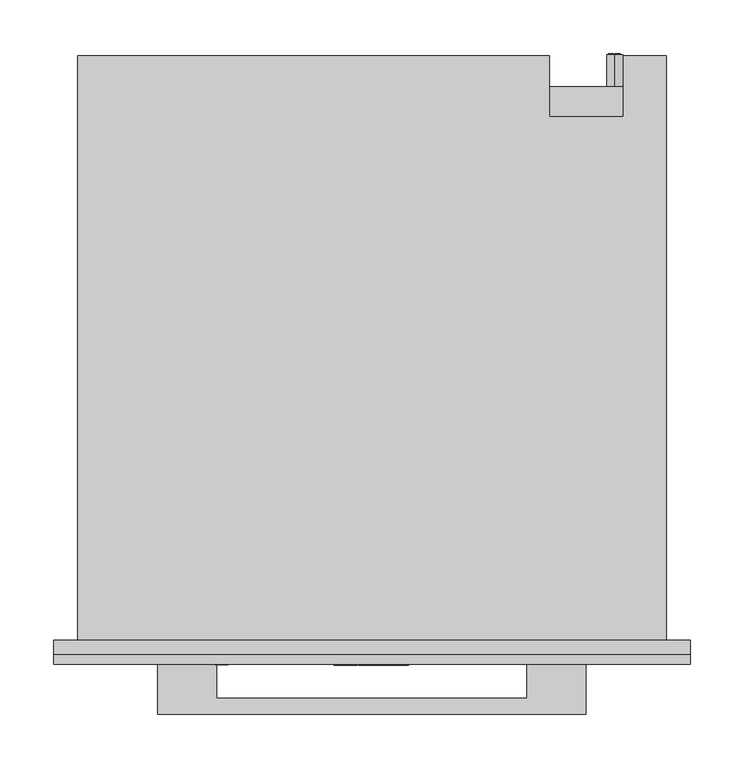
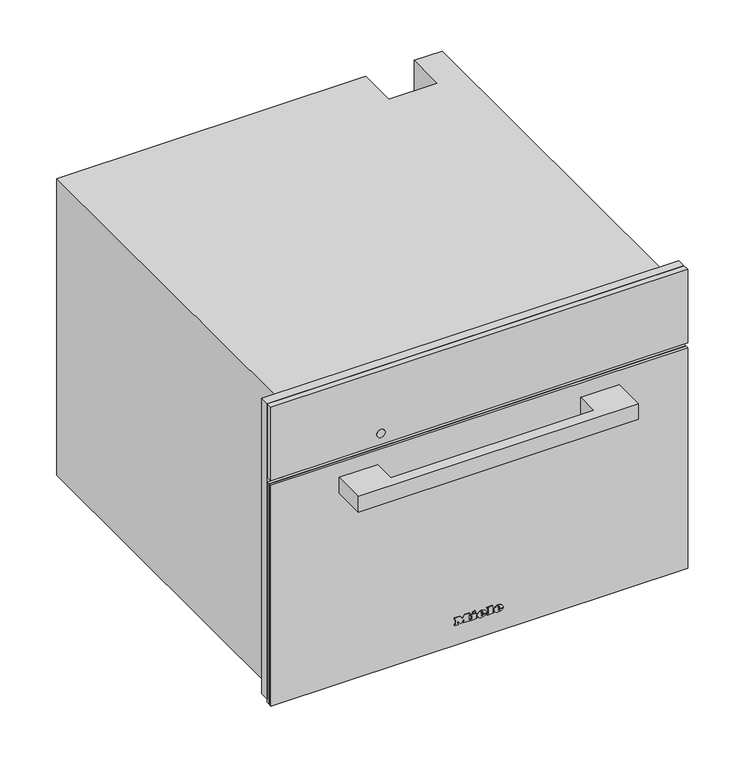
"""IFC4 building model written with IfcOpenShell, lengths in millimetres: proxy geometry, 12116980_I_DGC7840HCPro_GRGR : 23784038_I_12116980_DGC7840HCPro_GRGR."""

from ifc_helpers import new_model, si_unit, point, frame, frame_2d, origin, place, context, project, spatial, polyline, circle_curve, ellipse_curve, trimmed, segment, composite_curve, outline, extrude, faceted_brep, source, transform, mapped, element, save
from ifc_brep_helpers import plane_surface, cylinder_surface, revolved_surface, extruded_surface, advanced_brep


def specialty_equipment_21fb220e(model_context):
    return source(origin(), model_context, "Body", "SolidModel", [
        extrude(outline(polyline([(455.0, 297.5), (455.0, -297.5), (9.0, -297.5), (9.0, 297.5), (455.0, 297.5)]), holes=[polyline([(344.0, -272.5), (344.0, 272.5), (27.0, 272.5), (27.0, -272.5), (344.0, -272.5)])]), frame((0.0, -13.0, 0.0), z_axis=(0.0, 1.0, 0.0), x_axis=(0.0, 0.0, 1.0)), (0.0, 0.0, 1.0), 13.0),
        advanced_brep(
        [(227.0, 547.0, 255.5), (227.0, 547.0, 240.5), (221.4098301, 547.0, 243.0), (225.5, 547.0, 243.0), (225.5, 547.0, 253.0), (224.4955303, 547.0, 253.0), (224.4955303, 547.0, 244.0), (221.0315043, 547.0, 244.0), (221.0315043, 547.0, 243.4582978), (232.0, 547.0, 243.0), (232.0, 547.0, 253.0), (227.0, 547.0, 253.0), (227.0, 547.0, 252.0), (231.0, 547.0, 252.0), (231.0, 547.0, 248.5), (228.0, 547.0, 248.5), (228.0, 547.0, 247.5), (231.0, 547.0, 247.5), (231.0, 547.0, 244.0), (227.0, 547.0, 244.0), (227.0, 547.0, 243.0), (227.0, 517.0, 240.5), (227.0, 517.0, 255.5), (232.0, 548.0, 253.0), (232.0, 548.0, 243.0), (227.0, 548.0, 243.0), (227.0, 548.0, 244.0), (231.0, 548.0, 244.0), (231.0, 548.0, 247.5), (228.0, 548.0, 247.5), (228.0, 548.0, 248.5), (231.0, 548.0, 248.5), (231.0, 548.0, 252.0), (227.0, 548.0, 252.0), (227.0, 548.0, 253.0), (225.5, 548.0, 243.0), (221.0315043, 548.0, 243.0), (221.0315043, 548.0, 244.0), (224.4955303, 548.0, 244.0), (224.4955303, 548.0, 253.0), (225.5, 548.0, 253.0), (221.0315043, 547.0, 243.0)],
        [
            (0, 1, circle_curve(frame((227.0, 547.0, 248.0), z_axis=(0.0, 1.0, 0.0), x_axis=(0.0, 0.0, 1.0)), 7.5)),
            (1, 2, circle_curve(frame((227.0, 547.0, 248.0), z_axis=(0.0, 1.0, 0.0), x_axis=(0.0, 0.0, 1.0)), 7.5)),
            (2, 3),
            (3, 4),
            (4, 5),
            (5, 6),
            (6, 7),
            (7, 8),
            (8, 0, circle_curve(frame((227.0, 547.0, 248.0), z_axis=(0.0, 1.0, 0.0), x_axis=(0.0, 0.0, 1.0)), 7.5)),
            (9, 10),
            (10, 11),
            (11, 12),
            (12, 13),
            (13, 14),
            (14, 15),
            (15, 16),
            (16, 17),
            (17, 18),
            (18, 19),
            (19, 20),
            (20, 9),
            (21, 22, circle_curve(frame((227.0, 517.0, 248.0), z_axis=(0.0, -1.0, 0.0), x_axis=(0.0, 0.0, 1.0)), 7.5)),
            (22, 21, circle_curve(frame((227.0, 517.0, 248.0), z_axis=(0.0, -1.0, 0.0), x_axis=(0.0, 0.0, 1.0)), 7.5)),
            (0, 22),
            (21, 1),
            (8, 2, circle_curve(frame((227.0, 547.0, 248.0), z_axis=(0.0, -1.0, 0.0), x_axis=(0.0, 0.0, 1.0)), 7.5)),
            (23, 24),
            (24, 25),
            (25, 26),
            (26, 27),
            (27, 28),
            (28, 29),
            (29, 30),
            (30, 31),
            (31, 32),
            (32, 33),
            (33, 34),
            (34, 23),
            (35, 36),
            (36, 37),
            (37, 38),
            (38, 39),
            (39, 40),
            (40, 35),
            (8, 41),
            (41, 2),
            (23, 10),
            (9, 24),
            (20, 25),
            (19, 26),
            (18, 27),
            (17, 28),
            (16, 29),
            (15, 30),
            (14, 31),
            (13, 32),
            (12, 33),
            (11, 34),
            (35, 3),
            (41, 36),
            (7, 37),
            (6, 38),
            (5, 39),
            (4, 40),
        ],
        [
            plane_surface(frame((227.0, 547.0, 255.5), z_axis=(0.0, 1.0, 0.0), x_axis=(1.0, 0.0, 0.0))),
            plane_surface(frame((227.0, 517.0, 255.5), z_axis=(0.0, -1.0, 0.0), x_axis=(-1.0, 0.0, 0.0))),
            cylinder_surface(frame((227.0, 547.0, 248.0), z_axis=(0.0, -1.0, 0.0), x_axis=(0.0, 0.0, 1.0)), 7.5),
            plane_surface(frame((232.0, 548.0, 253.0), z_axis=(0.0, 1.0, 0.0), x_axis=(0.0, 0.0, -1.0))),
            plane_surface(frame((232.0, 547.0, 253.0), z_axis=(0.0, -1.0, 0.0), x_axis=(0.0, 0.0, 1.0))),
            plane_surface(frame((232.0, 548.0, 253.0), z_axis=(1.0, 0.0, 0.0), x_axis=(0.0, -1.0, 0.0))),
            plane_surface(frame((232.0, 548.0, 243.0), z_axis=(0.0, 0.0, -1.0), x_axis=(0.0, -1.0, 0.0))),
            plane_surface(frame((227.0, 548.0, 243.0), z_axis=(-1.0, 0.0, 0.0), x_axis=(0.0, -1.0, 0.0))),
            plane_surface(frame((227.0, 548.0, 244.0), z_axis=(0.0, 0.0, 1.0), x_axis=(0.0, -1.0, 0.0))),
            plane_surface(frame((231.0, 548.0, 244.0), z_axis=(-1.0, 0.0, 0.0), x_axis=(0.0, -1.0, 0.0))),
            plane_surface(frame((231.0, 548.0, 247.5), z_axis=(0.0, 0.0, -1.0), x_axis=(0.0, -1.0, 0.0))),
            plane_surface(frame((228.0, 548.0, 247.5), z_axis=(-1.0, 0.0, 0.0), x_axis=(0.0, -1.0, 0.0))),
            plane_surface(frame((228.0, 548.0, 248.5), z_axis=(0.0, 0.0, 1.0), x_axis=(0.0, -1.0, 0.0))),
            plane_surface(frame((231.0, 548.0, 248.5), z_axis=(-1.0, 0.0, 0.0), x_axis=(0.0, -1.0, 0.0))),
            plane_surface(frame((231.0, 548.0, 252.0), z_axis=(0.0, 0.0, -1.0), x_axis=(0.0, -1.0, 0.0))),
            plane_surface(frame((227.0, 548.0, 252.0), z_axis=(-1.0, 0.0, 0.0), x_axis=(0.0, -1.0, 0.0))),
            plane_surface(frame((227.0, 548.0, 253.0), z_axis=(0.0, 0.0, 1.0), x_axis=(0.0, -1.0, 0.0))),
            plane_surface(frame((225.5, 548.0, 243.0), z_axis=(0.0, 0.0, -1.0), x_axis=(0.0, -1.0, 0.0))),
            plane_surface(frame((221.0315043, 548.0, 243.0), z_axis=(-1.0, 0.0, 0.0), x_axis=(0.0, -1.0, 0.0))),
            plane_surface(frame((221.0315043, 548.0, 244.0), z_axis=(0.0, 0.0, 1.0), x_axis=(0.0, -1.0, 0.0))),
            plane_surface(frame((224.4955303, 548.0, 244.0), z_axis=(-1.0, 0.0, 0.0), x_axis=(0.0, -1.0, 0.0))),
            plane_surface(frame((224.4955303, 548.0, 253.0), z_axis=(0.0, 0.0, 1.0), x_axis=(0.0, -1.0, 0.0))),
            plane_surface(frame((225.5, 548.0, 253.0), z_axis=(1.0, 0.0, 0.0), x_axis=(0.0, -1.0, 0.0))),
        ],
        [
            (0, [[1, 2, 3, 4, 5, 6, 7, 8, 9], [10, 11, 12, 13, 14, 15, 16, 17, 18, 19, 20, 21]]),
            (1, [[22, 23]]),
            (2, [[-1, 24, -22, 25]]),
            (2, [[-23, -24, -9, 26, -2, -25]]),
            (3, [[27, 28, 29, 30, 31, 32, 33, 34, 35, 36, 37, 38]]),
            (3, [[39, 40, 41, 42, 43, 44]]),
            (4, [[45, 46, -26]]),
            (5, [[-27, 47, -10, 48]]),
            (6, [[-28, -48, -21, 49]]),
            (7, [[-29, -49, -20, 50]]),
            (8, [[-30, -50, -19, 51]]),
            (9, [[-31, -51, -18, 52]]),
            (10, [[-32, -52, -17, 53]]),
            (11, [[-33, -53, -16, 54]]),
            (12, [[-34, -54, -15, 55]]),
            (13, [[-35, -55, -14, 56]]),
            (14, [[-36, -56, -13, 57]]),
            (15, [[-37, -57, -12, 58]]),
            (16, [[-38, -58, -11, -47]]),
            (17, [[-39, 59, -3, -46, 60]]),
            (18, [[-40, -60, -45, -8, 61]]),
            (19, [[-41, -61, -7, 62]]),
            (20, [[-42, -62, -6, 63]]),
            (21, [[-43, -63, -5, 64]]),
            (22, [[-44, -64, -4, -59]]),
        ],
    ),
        faceted_brep([(-275.0, 546.0, 0.0), (-275.0, 546.0, 448.0), (166.0, 546.0, 448.0), (166.0, 546.0, 0.0), (235.0, 546.0, 448.0), (275.0, 546.0, 448.0), (275.0, 546.0, 338.0), (235.0, 546.0, 338.0), (275.0, 0.0, 448.0), (-275.0, 0.0, 448.0), (-275.0, 0.0, 0.0), (275.0, 0.0, 0.0), (-272.5, 0.0, 344.0), (272.5, 0.0, 344.0), (272.5, 0.0, 27.0), (-272.5, 0.0, 27.0), (235.0, 489.0, 448.0), (166.0, 489.0, 448.0), (166.0, 517.0, 0.0), (275.0, 517.0, 0.0), (275.0, 517.0, 338.0), (272.5, 17.0, 344.0), (-272.5, 17.0, 344.0), (-272.5, 17.0, 27.0), (272.5, 17.0, 27.0), (231.0, 17.0, 307.0), (231.0, 17.0, 65.0), (-231.0, 17.0, 65.0), (-231.0, 17.0, 307.0), (231.0, 411.0, 307.0), (-231.0, 411.0, 307.0), (-231.0, 411.0, 65.0), (231.0, 411.0, 65.0), (235.0, 489.0, 337.0), (166.0, 489.0, 337.0), (166.0, 517.0, 337.0), (235.0, 517.0, 337.0), (235.0, 517.0, 338.0)], [[[0, 1, 2, 3]], [[4, 5, 6, 7]], [[8, 9, 10, 11], [12, 13, 14, 15]], [[9, 8, 5, 4, 16, 17, 2, 1]], [[1, 0, 10, 9]], [[11, 10, 0, 3, 18, 19]], [[8, 11, 19, 20, 6, 5]], [[21, 22, 23, 24], [25, 26, 27, 28]], [[22, 21, 13, 12]], [[23, 22, 12, 15]], [[24, 23, 15, 14]], [[21, 24, 14, 13]], [[29, 30, 31, 32]], [[29, 32, 26, 25]], [[32, 31, 27, 26]], [[31, 30, 28, 27]], [[30, 29, 25, 28]], [[16, 33, 34, 17]], [[17, 34, 35, 18, 3, 2]], [[34, 33, 36, 35]], [[33, 16, 4, 7, 37, 36]], [[37, 20, 19, 18, 35, 36]], [[20, 37, 7, 6]]]),
        advanced_brep(
        [(26.2998, -23.0, 36.7018), (26.2998, -23.0, 37.8532), (33.9264, -23.0, 37.8532), (20.6568, -23.0, 37.8532), (23.7918, -23.0, 34.0), (33.7326, -23.0, 36.7018), (30.2898, -23.0, 36.7018), (27.5766, -23.0, 35.425), (26.2998, -23.0, 39.3124), (26.2998, -23.0, 40.555), (28.2492, -23.0, 40.555), (28.2492, -23.0, 39.3124), (26.2998, -22.0, 36.7018), (27.5766, -22.0, 35.425), (30.2898, -22.0, 36.7018), (33.7326, -22.0, 36.7018), (23.7918, -22.0, 34.0), (20.6568, -22.0, 37.8532), (33.9264, -22.0, 37.8532), (26.2998, -22.0, 37.8532), (26.2998, -22.0, 39.3124), (28.2492, -22.0, 39.3124), (28.2492, -22.0, 40.555), (26.2998, -22.0, 40.555)],
        [
            (0, 1),
            (1, 2),
            (2, 3, ellipse_curve(frame((27.2916, -23.0, 37.8532), z_axis=(0.0, -1.0, 0.0), x_axis=(-1.0, 0.0, 0.0)), 6.6348, 5.4834)),
            (3, 4, circle_curve(frame((25.0686622, -23.0, 38.2408), z_axis=(0.0, -1.0, 0.0), x_axis=(0.0, 0.0, -1.0)), 4.4288556)),
            (4, 5, circle_curve(frame((27.1587808, -23.0, 41.2504), z_axis=(0.0, -1.0, 0.0), x_axis=(0.0, 0.0, -1.0)), 7.9940516)),
            (5, 6),
            (6, 7, circle_curve(frame((28.1338588, -23.0, 37.762), z_axis=(0.0, 1.0, 0.0), x_axis=(0.0, 0.0, -1.0)), 2.4025208)),
            (7, 0, circle_curve(frame((27.5766, -23.0, 36.7018), z_axis=(0.0, 1.0, 0.0), x_axis=(0.0, 0.0, -1.0)), 1.2768)),
            (8, 9),
            (9, 10, circle_curve(frame((27.2745, -23.0, 40.555), z_axis=(0.0, 1.0, 0.0), x_axis=(0.0, 0.0, -1.0)), 0.9747)),
            (10, 11),
            (11, 8),
            (12, 13, circle_curve(frame((27.5766, -22.0, 36.7018), z_axis=(0.0, -1.0, 0.0), x_axis=(0.0, 0.0, -1.0)), 1.2768)),
            (13, 14, circle_curve(frame((28.1338588, -22.0, 37.762), z_axis=(0.0, -1.0, 0.0), x_axis=(0.0, 0.0, -1.0)), 2.4025208)),
            (14, 15),
            (15, 16, circle_curve(frame((27.1587808, -22.0, 41.2504), z_axis=(0.0, 1.0, 0.0), x_axis=(0.0, 0.0, -1.0)), 7.9940516)),
            (16, 17, circle_curve(frame((25.0686622, -22.0, 38.2408), z_axis=(0.0, 1.0, 0.0), x_axis=(0.0, 0.0, -1.0)), 4.4288556)),
            (17, 18, ellipse_curve(frame((27.2916, -22.0, 37.8532), z_axis=(0.0, 1.0, 0.0), x_axis=(-1.0, 0.0, 0.0)), 6.6348, 5.4834)),
            (18, 19),
            (19, 12),
            (20, 21),
            (21, 22),
            (22, 23, circle_curve(frame((27.2745, -22.0, 40.555), z_axis=(0.0, -1.0, 0.0), x_axis=(0.0, 0.0, -1.0)), 0.9747)),
            (23, 20),
            (0, 12),
            (19, 1),
            (18, 2),
            (5, 15),
            (14, 6),
            (17, 3),
            (13, 7),
            (16, 4),
            (8, 20),
            (23, 9),
            (22, 10),
            (21, 11),
        ],
        [
            plane_surface(frame((26.2998, -23.0, 37.8532), z_axis=(0.0, -1.0, 0.0), x_axis=(0.0, 0.0, 1.0))),
            plane_surface(frame((26.2998, -22.0, 37.8532), z_axis=(0.0, 1.0, 0.0), x_axis=(0.0, 0.0, -1.0))),
            plane_surface(frame((26.2998, -23.0, 36.7018), z_axis=(1.0, 0.0, 0.0), x_axis=(0.0, 1.0, 0.0))),
            plane_surface(frame((26.2998, -23.0, 37.8532), z_axis=(0.0, 0.0, -1.0), x_axis=(0.0, 1.0, 0.0))),
            plane_surface(frame((33.7326, -23.0, 36.7018), z_axis=(0.0, 0.0, 1.0), x_axis=(0.0, 1.0, 0.0))),
            extruded_surface(trimmed(ellipse_curve(frame((27.2916, -21.0, 37.8532), z_axis=(0.0, -1.0, 0.0), x_axis=(-1.0, 0.0, 0.0)), 6.6348, 5.4834), [point((33.9264, -21.0, 37.8532))], [point((20.6568, -21.0, 37.8532))], True, "CARTESIAN"), (0.0, -1.0, 0.0), 1.0),
            revolved_surface(polyline([(28.1338588, -22.0, 35.3594792), (28.1338588, -23.0, 35.3594792)]), (28.1338588, -22.0, 37.762), (0.0, 1.0, 0.0)),
            revolved_surface(polyline([(27.5766, -22.0, 35.425), (27.5766, -23.0, 35.425)]), (27.5766, -22.0, 36.7018), (0.0, 1.0, 0.0)),
            cylinder_surface(frame((25.0686622, -22.0, 38.2408), z_axis=(0.0, -1.0, 0.0), x_axis=(0.0, 0.0, -1.0)), 4.4288556),
            cylinder_surface(frame((27.1587808, -22.0, 41.2504), z_axis=(0.0, -1.0, 0.0), x_axis=(0.0, 0.0, -1.0)), 7.9940516),
            plane_surface(frame((26.2998, -23.0, 39.3124), z_axis=(1.0, 0.0, 0.0), x_axis=(0.0, 1.0, 0.0))),
            revolved_surface(polyline([(27.2745, -22.0, 39.5803), (27.2745, -23.0, 39.5803)]), (27.2745, -22.0, 40.555), (0.0, 1.0, 0.0)),
            plane_surface(frame((28.2492, -23.0, 40.555), z_axis=(-1.0, 0.0, 0.0), x_axis=(0.0, 1.0, 0.0))),
            plane_surface(frame((28.2492, -23.0, 39.3124), z_axis=(0.0, 0.0, 1.0), x_axis=(0.0, 1.0, 0.0))),
        ],
        [
            (0, [[1, 2, 3, 4, 5, 6, 7, 8], [9, 10, 11, 12]]),
            (1, [[13, 14, 15, 16, 17, 18, 19, 20], [21, 22, 23, 24]]),
            (2, [[-1, 25, -20, 26]]),
            (3, [[-2, -26, -19, 27]]),
            (4, [[-6, 28, -15, 29]]),
            (5, [[-3, -27, -18, 30]]),
            (6, [[-7, -29, -14, 31]]),
            (7, [[-8, -31, -13, -25]]),
            (8, [[-4, -30, -17, 32]]),
            (9, [[-5, -32, -16, -28]]),
            (10, [[-9, 33, -24, 34]]),
            (11, [[-10, -34, -23, 35]]),
            (12, [[-11, -35, -22, 36]]),
            (13, [[-12, -36, -21, -33]]),
        ],
    ),
        advanced_brep(
        [(2.508, -23.0, 36.7018), (2.508, -23.0, 37.8532), (10.1346, -23.0, 37.8532), (-3.135, -23.0, 37.8532), (0.0, -23.0, 34.0), (9.9408, -23.0, 36.7018), (6.498, -23.0, 36.7018), (3.7848, -23.0, 35.425), (2.508, -23.0, 39.3124), (2.508, -23.0, 40.555), (4.4574, -23.0, 40.555), (4.4574, -23.0, 39.3124), (2.508, -22.0, 36.7018), (3.7848, -22.0, 35.425), (6.498, -22.0, 36.7018), (9.9408, -22.0, 36.7018), (0.0, -22.0, 34.0), (-3.135, -22.0, 37.8532), (10.1346, -22.0, 37.8532), (2.508, -22.0, 37.8532), (2.508, -22.0, 39.3124), (4.4574, -22.0, 39.3124), (4.4574, -22.0, 40.555), (2.508, -22.0, 40.555)],
        [
            (0, 1),
            (1, 2),
            (2, 3, ellipse_curve(frame((3.4998, -23.0, 37.8532), z_axis=(0.0, -1.0, 0.0), x_axis=(-1.0, 0.0, 0.0)), 6.6348, 5.4834)),
            (3, 4, circle_curve(frame((1.2768622, -23.0, 38.2408), z_axis=(0.0, -1.0, 0.0), x_axis=(0.0, 0.0, -1.0)), 4.4288556)),
            (4, 5, circle_curve(frame((3.3669808, -23.0, 41.2504), z_axis=(0.0, -1.0, 0.0), x_axis=(0.0, 0.0, -1.0)), 7.9940516)),
            (5, 6),
            (6, 7, circle_curve(frame((4.3420588, -23.0, 37.762), z_axis=(0.0, 1.0, 0.0), x_axis=(0.0, 0.0, -1.0)), 2.4025208)),
            (7, 0, circle_curve(frame((3.7848, -23.0, 36.7018), z_axis=(0.0, 1.0, 0.0), x_axis=(0.0, 0.0, -1.0)), 1.2768)),
            (8, 9),
            (9, 10, circle_curve(frame((3.4827, -23.0, 40.555), z_axis=(0.0, 1.0, 0.0), x_axis=(0.0, 0.0, -1.0)), 0.9747)),
            (10, 11),
            (11, 8),
            (12, 13, circle_curve(frame((3.7848, -22.0, 36.7018), z_axis=(0.0, -1.0, 0.0), x_axis=(0.0, 0.0, -1.0)), 1.2768)),
            (13, 14, circle_curve(frame((4.3420588, -22.0, 37.762), z_axis=(0.0, -1.0, 0.0), x_axis=(0.0, 0.0, -1.0)), 2.4025208)),
            (14, 15),
            (15, 16, circle_curve(frame((3.3669808, -22.0, 41.2504), z_axis=(0.0, 1.0, 0.0), x_axis=(0.0, 0.0, -1.0)), 7.9940516)),
            (16, 17, circle_curve(frame((1.2768622, -22.0, 38.2408), z_axis=(0.0, 1.0, 0.0), x_axis=(0.0, 0.0, -1.0)), 4.4288556)),
            (17, 18, ellipse_curve(frame((3.4998, -22.0, 37.8532), z_axis=(0.0, 1.0, 0.0), x_axis=(-1.0, 0.0, 0.0)), 6.6348, 5.4834)),
            (18, 19),
            (19, 12),
            (20, 21),
            (21, 22),
            (22, 23, circle_curve(frame((3.4827, -22.0, 40.555), z_axis=(0.0, -1.0, 0.0), x_axis=(0.0, 0.0, -1.0)), 0.9747)),
            (23, 20),
            (0, 12),
            (19, 1),
            (18, 2),
            (5, 15),
            (14, 6),
            (17, 3),
            (13, 7),
            (16, 4),
            (8, 20),
            (23, 9),
            (22, 10),
            (21, 11),
        ],
        [
            plane_surface(frame((2.508, -23.0, 37.8532), z_axis=(0.0, -1.0, 0.0), x_axis=(0.0, 0.0, 1.0))),
            plane_surface(frame((2.508, -22.0, 37.8532), z_axis=(0.0, 1.0, 0.0), x_axis=(0.0, 0.0, -1.0))),
            plane_surface(frame((2.508, -23.0, 36.7018), z_axis=(1.0, 0.0, 0.0), x_axis=(0.0, 1.0, 0.0))),
            plane_surface(frame((2.508, -23.0, 37.8532), z_axis=(0.0, 0.0, -1.0), x_axis=(0.0, 1.0, 0.0))),
            plane_surface(frame((9.9408, -23.0, 36.7018), z_axis=(0.0, 0.0, 1.0), x_axis=(0.0, 1.0, 0.0))),
            extruded_surface(trimmed(ellipse_curve(frame((3.4998, -21.0, 37.8532), z_axis=(0.0, -1.0, 0.0), x_axis=(-1.0, 0.0, 0.0)), 6.6348, 5.4834), [point((10.1346, -21.0, 37.8532))], [point((-3.135, -21.0, 37.8532))], True, "CARTESIAN"), (0.0, -1.0, 0.0), 1.0),
            revolved_surface(polyline([(4.3420588, -22.0, 35.3594792), (4.3420588, -23.0, 35.3594792)]), (4.3420588, -22.0, 37.762), (0.0, 1.0, 0.0)),
            revolved_surface(polyline([(3.7848, -22.0, 35.425), (3.7848, -23.0, 35.425)]), (3.7848, -22.0, 36.7018), (0.0, 1.0, 0.0)),
            cylinder_surface(frame((1.2768622, -22.0, 38.2408), z_axis=(0.0, -1.0, 0.0), x_axis=(0.0, 0.0, -1.0)), 4.4288556),
            cylinder_surface(frame((3.3669808, -22.0, 41.2504), z_axis=(0.0, -1.0, 0.0), x_axis=(0.0, 0.0, -1.0)), 7.9940516),
            plane_surface(frame((2.508, -23.0, 39.3124), z_axis=(1.0, 0.0, 0.0), x_axis=(0.0, 1.0, 0.0))),
            revolved_surface(polyline([(3.4827, -22.0, 39.5803), (3.4827, -23.0, 39.5803)]), (3.4827, -22.0, 40.555), (0.0, 1.0, 0.0)),
            plane_surface(frame((4.4574, -23.0, 40.555), z_axis=(-1.0, 0.0, 0.0), x_axis=(0.0, 1.0, 0.0))),
            plane_surface(frame((4.4574, -23.0, 39.3124), z_axis=(0.0, 0.0, 1.0), x_axis=(0.0, 1.0, 0.0))),
        ],
        [
            (0, [[1, 2, 3, 4, 5, 6, 7, 8], [9, 10, 11, 12]]),
            (1, [[13, 14, 15, 16, 17, 18, 19, 20], [21, 22, 23, 24]]),
            (2, [[-1, 25, -20, 26]]),
            (3, [[-2, -26, -19, 27]]),
            (4, [[-6, 28, -15, 29]]),
            (5, [[-3, -27, -18, 30]]),
            (6, [[-7, -29, -14, 31]]),
            (7, [[-8, -31, -13, -25]]),
            (8, [[-4, -30, -17, 32]]),
            (9, [[-5, -32, -16, -28]]),
            (10, [[-9, 33, -24, 34]]),
            (11, [[-10, -34, -23, 35]]),
            (12, [[-11, -35, -22, 36]]),
            (13, [[-12, -36, -21, -33]]),
        ],
    ),
        extrude(outline(polyline([(44.7274, -9.9522), (42.8806, -9.0858), (44.6818, -5.2212), (46.5286, -6.0762), (44.7274, -9.9522)])), frame((0.0, -23.0, 0.0), z_axis=(0.0, 1.0, 0.0), x_axis=(0.0, 0.0, 1.0)), (0.0, 0.0, 1.0), 1.0),
        extrude(outline(polyline([(42.6298, -12.768), (40.5892, -12.768), (40.5892, -11.4114), (35.9152, -11.4114), (35.9152, -12.768), (34.0, -12.768), (34.0, -3.7734), (35.9152, -3.7734), (35.9152, -5.0958), (42.6298, -5.0958), (42.6298, -12.768)])), frame((0.0, -23.0, 0.0), z_axis=(0.0, 1.0, 0.0), x_axis=(0.0, 0.0, 1.0)), (0.0, 0.0, 1.0), 1.0),
        extrude(outline(polyline([(43.5418, 10.773), (43.5418, 12.141), (35.9152, 12.141), (35.9152, 10.773), (34.0, 10.773), (34.0, 20.0184), (35.9152, 20.0184), (35.9152, 18.6162), (45.4, 18.6162), (45.4, 10.773), (43.5418, 10.773)])), frame((0.0, -23.0, 0.0), z_axis=(0.0, 1.0, 0.0), x_axis=(0.0, 0.0, 1.0)), (0.0, 0.0, 1.0), 1.0),
        extrude(outline(polyline([(43.5418, -35.4882), (43.5418, -34.1088), (35.9152, -34.1088), (35.9152, -35.4882), (34.0, -35.4882), (34.0, -30.4722), (35.9152, -30.4722), (35.9152, -31.8402), (40.7429247, -31.8402), (34.0, -26.7444), (40.9402223, -21.6258), (35.9152, -21.6258), (35.9152, -23.028), (34.0, -23.028), (34.0, -13.9308), (35.9152, -13.9308), (35.9152, -15.3786), (43.5418, -15.3786), (43.5418, -13.9308), (45.4, -13.9308), (45.4, -20.8734), (41.125, -24.2022), (45.4, -27.5424), (45.4, -35.4882), (43.5418, -35.4882)])), frame((0.0, -23.0, 0.0), z_axis=(0.0, 1.0, 0.0), x_axis=(0.0, 0.0, 1.0)), (0.0, 0.0, 1.0), 1.0),
        extrude(outline(polyline([(297.5, -22.0), (-297.5, -22.0), (-297.5, -13.0), (297.5, -13.0), (297.5, -22.0)])), frame((0.0, 0.0, 344.0), z_axis=(0.0, 0.0, 1.0), x_axis=(1.0, 0.0, 0.0)), (0.0, 0.0, 1.0), 111.0),
        extrude(outline(composite_curve([segment(trimmed(circle_curve(frame_2d((361.0, -140.5745637)), 6.0), [point((361.0, -146.5745637))], [point((361.0, -134.5745637))], False, "CARTESIAN"), True, "CONTINUOUS"), segment(trimmed(circle_curve(frame_2d((361.0, -140.5745637)), 6.0), [point((361.0, -134.5745637))], [point((361.0, -146.5745637))], False, "CARTESIAN"), True, "CONTINUOUS")], self_intersect=False)), frame((0.0, -22.5, 0.0), z_axis=(0.0, 1.0, 0.0), x_axis=(0.0, 0.0, 1.0)), (0.0, 0.0, 1.0), 1.0),
        extrude(outline(polyline([(-200.0, -69.0), (-200.0, -22.0), (-145.0, -22.0), (-145.0, -54.0), (145.0, -54.0), (145.0, -22.0), (200.0, -22.0), (200.0, -69.0), (-200.0, -69.0)])), frame((0.0, 0.0, 291.0), z_axis=(0.0, 0.0, 1.0), x_axis=(1.0, 0.0, 0.0)), (0.0, 0.0, 1.0), 24.0),
        extrude(outline(polyline([(297.5, -18.0), (-297.5, -18.0), (-297.5, -13.0), (297.5, -13.0), (297.5, -18.0)])), frame((0.0, 0.0, 4.0), z_axis=(0.0, 0.0, 1.0), x_axis=(1.0, 0.0, 0.0)), (0.0, 0.0, 1.0), 333.0),
        extrude(outline(polyline([(-297.5, -18.0), (297.5, -18.0), (297.5, -22.0), (-297.5, -22.0), (-297.5, -18.0)])), frame((0.0, 0.0, 4.0), z_axis=(0.0, 0.0, 1.0), x_axis=(1.0, 0.0, 0.0)), (0.0, 0.0, 1.0), 333.0),
    ])


if __name__ == "__main__":
    model = new_model("IFC4")
    model_context = context("Model", 3, world=origin())
    ifc_project = project(units=[si_unit("LENGTHUNIT", "METRE", prefix="MILLI")], contexts=[model_context])
    site = spatial("IfcSite", under=ifc_project)
    building = spatial("IfcBuilding", under=site)
    placement = place(None, origin())
    specialty_equipment_shape = specialty_equipment_21fb220e(model_context)
    element("IfcBuildingElementProxy", 1, Name="12116980_I_DGC7840HCPro_GRGR : 23784038_I_12116980_DGC7840HCPro_GRGR", ObjectType="12116980_I_DGC7840HCPro_GRGR : 23784038_I_12116980_DGC7840HCPro_GRGR", at=placement, inside=building, context=model_context, shape_type="MappedRepresentation", body=[
        mapped(specialty_equipment_shape, transform((0.0, 0.0, 0.0), x_axis=(1.0, 0.0, 0.0), y_axis=(0.0, 1.0, 0.0), z_axis=(0.0, 0.0, 1.0))),
    ])
    save(model, "model.ifc")
